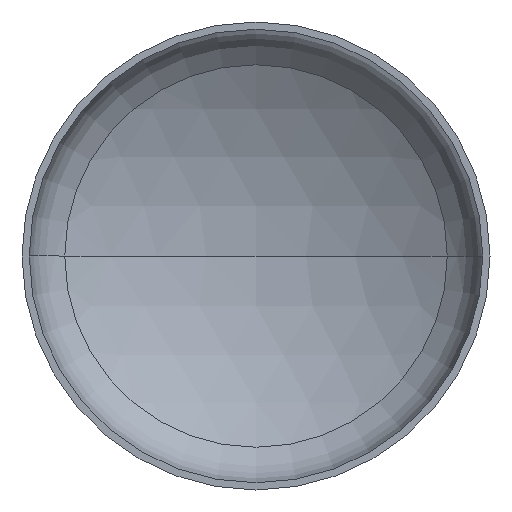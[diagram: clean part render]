
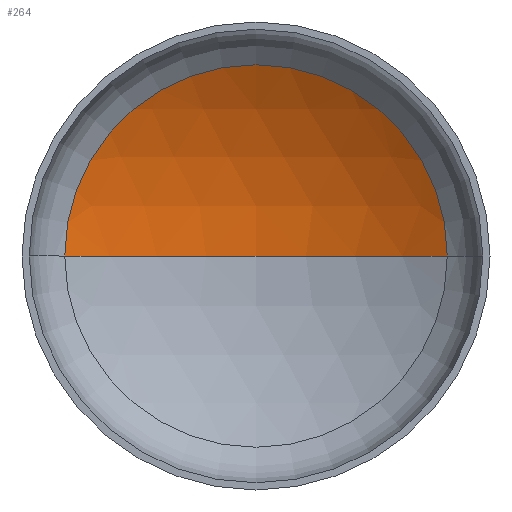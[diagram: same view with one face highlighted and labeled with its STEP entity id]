
A CAD part, front view. The second image highlights one B-rep face of the part: STEP entity #264.
In plain terms, the highlighted spherical face has radius 1600 mm.
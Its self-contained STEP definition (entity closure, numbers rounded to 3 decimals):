
#3 = DIRECTION ( 'NONE',  ( 0., 0., -1. ) ) ;
#8 = VERTEX_POINT ( 'NONE', #279 ) ;
#11 = AXIS2_PLACEMENT_3D ( 'NONE', #407, #271, #96 ) ;
#12 = EDGE_LOOP ( 'NONE', ( #26, #130, #124 ) ) ;
#16 = AXIS2_PLACEMENT_3D ( 'NONE', #318, #209, #262 ) ;
#26 = ORIENTED_EDGE ( 'NONE', *, *, #352, .F. ) ;
#28 = AXIS2_PLACEMENT_3D ( 'NONE', #314, #263, #55 ) ;
#47 = AXIS2_PLACEMENT_3D ( 'NONE', #191, #3, #384 ) ;
#55 = DIRECTION ( 'NONE',  ( 1., 0., 0. ) ) ;
#74 = VERTEX_POINT ( 'NONE', #253 ) ;
#82 = VERTEX_POINT ( 'NONE', #229 ) ;
#96 = DIRECTION ( 'NONE',  ( -1., 0., 0. ) ) ;
#124 = ORIENTED_EDGE ( 'NONE', *, *, #335, .T. ) ;
#130 = ORIENTED_EDGE ( 'NONE', *, *, #372, .T. ) ;
#191 = CARTESIAN_POINT ( 'NONE',  ( 0., -1008.972, 0. ) ) ;
#205 = FACE_OUTER_BOUND ( 'NONE', #12, .T. ) ;
#209 = DIRECTION ( 'NONE',  ( 0., 0., 1. ) ) ;
#229 = CARTESIAN_POINT ( 'NONE',  ( -817.364, 366.497, 0. ) ) ;
#253 = CARTESIAN_POINT ( 'NONE',  ( 0., 591.028, 0. ) ) ;
#262 = DIRECTION ( 'NONE',  ( 1., 0., 0. ) ) ;
#263 = DIRECTION ( 'NONE',  ( 0., -1., 0. ) ) ;
#264 = ADVANCED_FACE ( 'NONE', ( #205 ), #389, .F. ) ;
#271 = DIRECTION ( 'NONE',  ( 0., 0., -1. ) ) ;
#279 = CARTESIAN_POINT ( 'NONE',  ( 817.364, 366.497, 0. ) ) ;
#314 = CARTESIAN_POINT ( 'NONE',  ( 0., 366.497, 0. ) ) ;
#318 = CARTESIAN_POINT ( 'NONE',  ( 0., -1008.972, 0. ) ) ;
#335 = EDGE_CURVE ( 'NONE', #8, #82, #373, .T. ) ;
#352 = EDGE_CURVE ( 'NONE', #74, #82, #363, .T. ) ;
#363 = CIRCLE ( 'NONE', #16, 1600. ) ;
#372 = EDGE_CURVE ( 'NONE', #74, #8, #408, .T. ) ;
#373 = CIRCLE ( 'NONE', #28, 817.364 ) ;
#384 = DIRECTION ( 'NONE',  ( -1., 0., 0. ) ) ;
#389 = SPHERICAL_SURFACE ( 'NONE', #47, 1600. ) ;
#407 = CARTESIAN_POINT ( 'NONE',  ( 0., -1008.972, 0. ) ) ;
#408 = CIRCLE ( 'NONE', #11, 1600. ) ;
